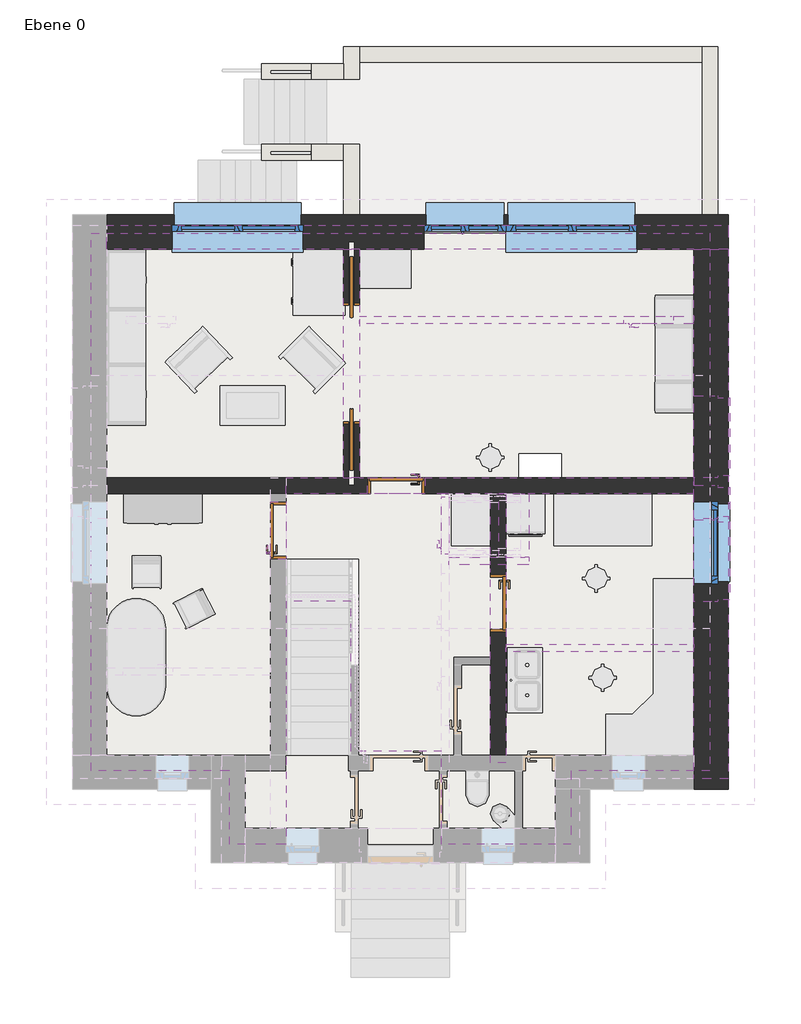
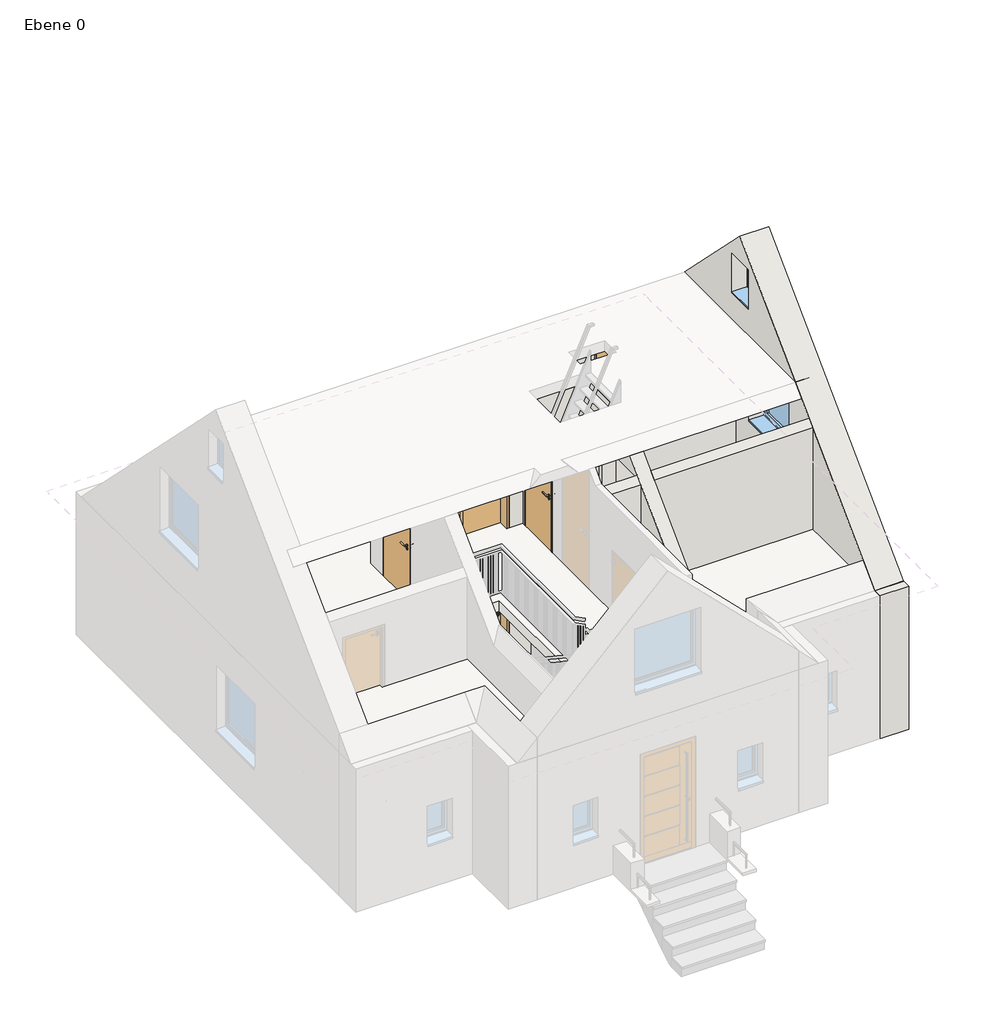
# One storey, part 2 of 3: 20 walls, 8 doors, 7 windows, 3 slabs.
"""IFC4 building model written with IfcOpenShell, lengths in millimetres."""

from ifc_helpers import new_model, si_unit, frame, origin, place, context, project, spatial, polyline, outline, extrude, faceted_brep, transform, mapped, element, save
from components import door_a362e75e, door_5454d597, door_c0c9e2e8, ml_1860_x_226_mit_rahmenstock_2_204127ef, ml_760_x_1200_513c8107, window_1260_x_2136_395e8edb, fe_1_tlg_drehkipp_1260_x_1260_6cbcbbed, fe_1_tlg_drehkipp_510_x_760_2ecf23b0, fe_2_tlg_drehkipp_mit_stulp_2010_x_1260_aa5a6977

model = new_model("IFC4")

# Units and contexts
model_context = context("Model", 3, world=origin())
ifc_project = project(units=[si_unit("LENGTHUNIT", "METRE", prefix="MILLI")], contexts=[model_context])

# Site, building, storey
site = spatial("IfcSite", under=ifc_project)
building = spatial("IfcBuilding", under=site)
storey = spatial("IfcBuildingStorey", under=building, Name="Ebene 0", Elevation=1000.0)

# Doors
placement = place(None, origin())
door_shape = door_a362e75e(model_context)
element("IfcDoor", 1, ObjectType="TU DF 1 - Rahmenstock flächenbündig variabel : ML - H - 885 x 2260", at=placement, inside=storey, context=model_context, shape_type="MappedRepresentation", body=[
    mapped(door_shape, transform((2682.5, 5620.0, 1000.0), x_axis=(-1.0, 0.0, 0.0), y_axis=(0.0, -1.0, 0.0), z_axis=(0.0, 0.0, 1.0))),
])
element("IfcDoor", 2, ObjectType="TU DF 1 - Rahmenstock flächenbündig variabel : ML - H - 885 x 2260", at=placement, inside=storey, context=model_context, shape_type="MappedRepresentation", body=[
    mapped(door_shape, transform((2682.5, 5620.0, 3750.0), x_axis=(-1.0, 0.0, 0.0), y_axis=(0.0, -1.0, 0.0), z_axis=(0.0, 0.0, 1.0))),
])
door_2_shape = door_5454d597(model_context)
element("IfcDoor", 3, ObjectType="TU DF 1 - Rahmenstock flächenbündig variabel : ML - H - 885 x 2260", at=placement, inside=storey, context=model_context, shape_type="MappedRepresentation", body=[
    mapped(door_2_shape, transform((870.0, 4932.5, 1000.0), x_axis=(0.0, 1.0, 0.0), y_axis=(-1.0, 0.0, 0.0), z_axis=(0.0, 0.0, 1.0))),
])
element("IfcDoor", 4, ObjectType="TU DF 1 - Rahmenstock flächenbündig variabel : ML - H - 885 x 2260", at=placement, inside=storey, context=model_context, shape_type="MappedRepresentation", body=[
    mapped(door_2_shape, transform((870.0, 4932.5, 3750.0), x_axis=(0.0, 1.0, 0.0), y_axis=(-1.0, 0.0, 0.0), z_axis=(0.0, 0.0, 1.0))),
])
door_3_shape = door_c0c9e2e8(model_context)
element("IfcDoor", 5, ObjectType="TU DF 1 - Rahmenstock flächenbündig variabel : ML - H - 885 x 2260", at=placement, inside=storey, context=model_context, shape_type="MappedRepresentation", body=[
    mapped(door_3_shape, transform((3432.5, 5010.0, 3750.0), x_axis=(0.0, 1.0, 0.0), y_axis=(-1.0, 0.0, 0.0), z_axis=(0.0, 0.0, 1.0))),
])
element("IfcDoor", 6, ObjectType="TU DF 1 - Rahmenstock flächenbündig variabel : ML - H - 885 x 2260", at=placement, inside=storey, context=model_context, shape_type="MappedRepresentation", body=[
    mapped(door_2_shape, transform((4245.0, 3817.5, 1100.0), x_axis=(0.0, -1.0, 0.0), y_axis=(1.0, 0.0, 0.0), z_axis=(0.0, 0.0, 1.0))),
])
ml_1860_x_226_mit_rahmenstock_2_shape = ml_1860_x_226_mit_rahmenstock_2_204127ef(model_context)
element("IfcDoor", 7, ObjectType="TU SF 2 - Schiebetüre in Wandtasche : ML - 1860 x 226 mit Rahmenstock 2", at=placement, inside=storey, context=model_context, shape_type="MappedRepresentation", body=[
    mapped(ml_1860_x_226_mit_rahmenstock_2_shape, transform((1995.1159714, 7495.0, 1000.0), x_axis=(0.0, 1.0, 0.0), y_axis=(-1.0, 0.0, 0.0), z_axis=(0.0, 0.0, 1.0))),
])
ml_760_x_1200_shape = ml_760_x_1200_513c8107(model_context)
element("IfcDoor", 8, ObjectType="TU DF 1 - Rahmenstock flächenbündig : ML -760 x 1200", at=placement, inside=storey, context=model_context, shape_type="MappedRepresentation", body=[
    mapped(ml_760_x_1200_shape, transform((6555.0, 8157.5, 3750.0), x_axis=(1.0, 0.0, 0.0), y_axis=(0.0, 1.0, 0.0), z_axis=(0.0, 0.0, 1.0))),
])

# Slabs
element("IfcSlab", 9, ObjectType="FB 100 Terrazzo", at=placement, inside=storey, context=model_context, shape_type="SweptSolid", body=[
    extrude(outline(polyline([(4365.0, 1490.0), (4365.0, 5500.0), (7250.0, 5500.0), (7250.0, 1490.0), (5125.0, 1490.0), (5125.0, 365.0), (4615.0, 365.0), (4615.0, 1490.0), (4365.0, 1490.0)])), frame((0.0, 0.0, 1000.0), z_axis=(0.0, 0.0, 1.0), x_axis=(1.0, 0.0, 0.0)), (0.0, 0.0, 1.0), 100.0),
])
element("IfcSlab", 10, ObjectType="STB 200", at=placement, inside=storey, context=model_context, shape_type="Brep", body=[
    faceted_brep([(-2000.0, 9490.0, 3550.0), (-1760.0, 9490.0, 3550.0), (7490.0, 9490.0, 3550.0), (7490.0, 9250.0, 3550.0), (7490.0, 1250.0, 3550.0), (7250.0, 1250.0, 3550.0), (5365.0, 1250.0, 3550.0), (5365.0, 965.0, 3550.0), (5365.0, 125.0, 3550.0), (5125.0, 125.0, 3550.0), (3375.0, 125.0, 3550.0), (3375.0, 365.0, 3550.0), (3375.0, 1550.0, 3550.0), (1990.0, 1550.0, 3550.0), (1990.0, 3847.3, 3550.0), (990.0, 3847.3, 3550.0), (990.0, 365.0, 3550.0), (990.0, 125.0, 3550.0), (365.0, 125.0, 3550.0), (125.0, 125.0, 3550.0), (125.0, 1250.0, 3550.0), (-160.0, 1250.0, 3550.0), (-2000.0, 1250.0, 3550.0), (-2000.0, 1490.0, 3550.0), (5215.0, 5751.2341615, 3550.0), (5215.0, 6111.2341615, 3550.0), (4565.0, 6111.2341615, 3550.0), (4565.0, 5751.2341615, 3550.0), (7490.0, 9490.0, 3750.0), (-1760.0, 9490.0, 3750.0), (-2000.0, 9490.0, 3750.0), (-2000.0, 1490.0, 3750.0), (-2000.0, 1250.0, 3750.0), (-160.0, 1250.0, 3750.0), (125.0, 1250.0, 3750.0), (125.0, 125.0, 3750.0), (365.0, 125.0, 3750.0), (990.0, 125.0, 3750.0), (990.0, 365.0, 3750.0), (990.0, 3847.3, 3750.0), (1990.0, 3847.3, 3750.0), (1990.0, 1550.0, 3750.0), (3375.0, 1550.0, 3750.0), (3375.0, 365.0, 3750.0), (3375.0, 125.0, 3750.0), (5125.0, 125.0, 3750.0), (5365.0, 125.0, 3750.0), (5365.0, 965.0, 3750.0), (5365.0, 1250.0, 3750.0), (7250.0, 1250.0, 3750.0), (7490.0, 1250.0, 3750.0), (7490.0, 9250.0, 3750.0), (5215.0, 6111.2341615, 3750.0), (5215.0, 5751.2341615, 3750.0), (4565.0, 5751.2341615, 3750.0), (4565.0, 6111.2341615, 3750.0)], [[[0, 1, 2, 3, 4, 5, 6, 7, 8, 9, 10, 11, 12, 13, 14, 15, 16, 17, 18, 19, 20, 21, 22, 23], [24, 25, 26, 27]], [[28, 29, 30, 31, 32, 33, 34, 35, 36, 37, 38, 39, 40, 41, 42, 43, 44, 45, 46, 47, 48, 49, 50, 51], [52, 53, 54, 55]], [[2, 1, 0, 30, 29, 28]], [[4, 3, 2, 28, 51, 50]], [[6, 5, 4, 50, 49, 48]], [[8, 7, 6, 48, 47, 46]], [[10, 9, 8, 46, 45, 44]], [[20, 19, 35, 34]], [[22, 21, 20, 34, 33, 32]], [[0, 23, 22, 32, 31, 30]], [[17, 16, 15, 39, 38, 37]], [[14, 13, 41, 40]], [[15, 14, 40, 39]], [[12, 11, 10, 44, 43, 42]], [[13, 12, 42, 41]], [[19, 18, 17, 37, 36, 35]], [[24, 53, 52, 25]], [[25, 52, 55, 26]], [[26, 55, 54, 27]], [[53, 24, 27, 54]]]),
])
element("IfcSlab", 11, ObjectType="STB 200", at=placement, inside=storey, context=model_context, shape_type="Brep", body=[
    faceted_brep([(-2000.0, 9490.0, 800.0), (-1750.0, 9490.0, 800.0), (7490.0, 9490.0, 800.0), (7490.0, 9240.0, 800.0), (7490.0, 1250.0, 800.0), (7240.0, 1250.0, 800.0), (5365.0, 1250.0, 800.0), (5365.0, 1125.0, 800.0), (5365.0, 125.0, 800.0), (5115.0, 125.0, 800.0), (375.0, 125.0, 800.0), (125.0, 125.0, 800.0), (125.0, 1250.0, 800.0), (0.0, 1250.0, 800.0), (-2000.0, 1250.0, 800.0), (-2000.0, 1500.0, 800.0), (990.0, 4490.0, 800.0), (990.0, 1490.0, 800.0), (1990.0, 1490.0, 800.0), (1990.0, 4490.0, 800.0), (5215.0, 5751.2341615, 800.0), (5215.0, 6111.2341615, 800.0), (4565.0, 6111.2341615, 800.0), (4565.0, 5751.2341615, 800.0), (7490.0, 9490.0, 1000.0), (-1750.0, 9490.0, 1000.0), (-2000.0, 9490.0, 1000.0), (-2000.0, 1500.0, 1000.0), (-2000.0, 1250.0, 1000.0), (0.0, 1250.0, 1000.0), (125.0, 1250.0, 1000.0), (125.0, 125.0, 1000.0), (375.0, 125.0, 1000.0), (5115.0, 125.0, 1000.0), (5365.0, 125.0, 1000.0), (5365.0, 1125.0, 1000.0), (5365.0, 1250.0, 1000.0), (7240.0, 1250.0, 1000.0), (7490.0, 1250.0, 1000.0), (7490.0, 9240.0, 1000.0), (990.0, 1490.0, 1000.0), (990.0, 4490.0, 1000.0), (1990.0, 4490.0, 1000.0), (1990.0, 1490.0, 1000.0), (5215.0, 6111.2341615, 1000.0), (5215.0, 5751.2341615, 1000.0), (4565.0, 5751.2341615, 1000.0), (4565.0, 6111.2341615, 1000.0)], [[[0, 1, 2, 3, 4, 5, 6, 7, 8, 9, 10, 11, 12, 13, 14, 15], [16, 17, 18, 19], [20, 21, 22, 23]], [[24, 25, 26, 27, 28, 29, 30, 31, 32, 33, 34, 35, 36, 37, 38, 39], [40, 41, 42, 43], [44, 45, 46, 47]], [[2, 1, 0, 26, 25, 24]], [[4, 3, 2, 24, 39, 38]], [[6, 5, 4, 38, 37, 36]], [[8, 7, 6, 36, 35, 34]], [[11, 10, 9, 8, 34, 33, 32, 31]], [[12, 11, 31, 30]], [[14, 13, 12, 30, 29, 28]], [[0, 15, 14, 28, 27, 26]], [[17, 16, 41, 40]], [[18, 17, 40, 43]], [[19, 18, 43, 42]], [[16, 19, 42, 41]], [[20, 45, 44, 21]], [[21, 44, 47, 22]], [[22, 47, 46, 23]], [[45, 20, 23, 46]]]),
])

# Walls
element("IfcWall", 12, ObjectType="Ziegel+WD hart 365+140+2", at=placement, inside=storey, context=model_context, shape_type="Brep", body=[
    faceted_brep([(-1760.0, 9250.0, 1000.0), (1875.0, 9250.0, 1000.0), (1952.6159714, 9250.0, 1000.0), (1952.6159714, 9250.0, 3260.0), (2037.6159714, 9250.0, 3260.0), (2037.6159714, 9250.0, 1000.0), (2115.0, 9250.0, 1000.0), (3105.0, 9250.0, 1000.0), (3105.0, 9250.0, 3135.0), (4365.0, 9250.0, 3135.0), (4365.0, 9250.0, 3110.0), (6375.0, 9250.0, 3110.0), (6375.0, 9250.0, 1850.0), (4365.0, 9250.0, 1850.0), (4365.0, 9250.0, 1000.0), (7250.0, 9250.0, 1000.0), (7775.0, 9250.0, 1000.0), (7775.0, 9250.0, 3750.0), (7490.0, 9250.0, 3750.0), (7490.0, 9250.0, 3550.0), (7250.0, 9250.0, 3550.0), (2115.0, 9250.0, 3550.0), (1875.0, 9250.0, 3550.0), (-1760.0, 9250.0, 3550.0), (-760.0, 9250.0, 3110.0), (1250.0, 9250.0, 3110.0), (1250.0, 9250.0, 1850.0), (-760.0, 9250.0, 1850.0), (7775.0, 9775.0, 1000.0), (-1760.0, 9775.0, 1000.0), (-1760.0, 9775.0, 3750.0), (7775.0, 9775.0, 3750.0), (1220.0, 9775.0, 1865.0), (1220.0, 9775.0, 3080.0), (-730.0, 9775.0, 3080.0), (-730.0, 9775.0, 1865.0), (4335.0, 9775.0, 1195.0), (4335.0, 9775.0, 3105.0), (3135.0, 9775.0, 3105.0), (3135.0, 9775.0, 1195.0), (6345.0, 9775.0, 1865.0), (6345.0, 9775.0, 3080.0), (4395.0, 9775.0, 3080.0), (4395.0, 9775.0, 1865.0), (4365.0, 9615.0, 1000.0), (3105.0, 9615.0, 1000.0), (2037.6159714, 9360.0, 1000.0), (1952.6159714, 9360.0, 1000.0), (-1760.0, 9490.0, 3750.0), (7490.0, 9490.0, 3750.0), (7775.0, 9615.0, 3750.0), (-1760.0, 9490.0, 3550.0), (-760.0, 9615.0, 3110.0), (1250.0, 9615.0, 3110.0), (1250.0, 9615.0, 1850.0), (-760.0, 9615.0, 1850.0), (1220.0, 9615.0, 3080.0), (1220.0, 9615.0, 1870.0), (-730.0, 9615.0, 1870.0), (-730.0, 9615.0, 3080.0), (1952.6159714, 9360.0, 3260.0), (2037.6159714, 9360.0, 3260.0), (3105.0, 9615.0, 3135.0), (4365.0, 9615.0, 3135.0), (4365.0, 9615.0, 3110.0), (4365.0, 9615.0, 1850.0), (6375.0, 9615.0, 1850.0), (6375.0, 9615.0, 3110.0), (4335.0, 9615.0, 3105.0), (4335.0, 9615.0, 1200.0), (3135.0, 9615.0, 1200.0), (3135.0, 9615.0, 3105.0), (6345.0, 9615.0, 3080.0), (6345.0, 9615.0, 1870.0), (4395.0, 9615.0, 1870.0), (4395.0, 9615.0, 3080.0), (7490.0, 9490.0, 3550.0)], [[[0, 1, 2, 3, 4, 5, 6, 7, 8, 9, 10, 11, 12, 13, 14, 15, 16, 17, 18, 19, 20, 21, 22, 23], [24, 25, 26, 27]], [[28, 29, 30, 31], [32, 33, 34, 35], [36, 37, 38, 39], [40, 41, 42, 43]], [[29, 28, 16, 15, 14, 44, 45, 7, 6, 5, 46, 47, 2, 1, 0]], [[31, 30, 48, 49, 18, 17, 50]], [[30, 29, 0, 23, 51, 48]], [[52, 53, 25, 24]], [[54, 55, 27, 26]], [[52, 24, 27, 55]], [[25, 53, 54, 26]], [[53, 52, 55, 54], [56, 57, 58, 59]], [[57, 56, 33, 32]], [[58, 57, 32, 35]], [[59, 58, 35, 34]], [[56, 59, 34, 33]], [[60, 61, 4, 3]], [[47, 60, 3, 2]], [[61, 46, 5, 4]], [[61, 60, 47, 46]], [[62, 63, 9, 8]], [[62, 8, 7, 45]], [[9, 63, 64, 10]], [[44, 14, 13, 65]], [[63, 62, 45, 44, 65, 66, 67, 64], [68, 69, 70, 71], [72, 73, 74, 75]], [[69, 68, 37, 36]], [[70, 69, 36, 39]], [[71, 70, 39, 38]], [[68, 71, 38, 37]], [[64, 67, 11, 10]], [[66, 65, 13, 12]], [[67, 66, 12, 11]], [[73, 72, 41, 40]], [[74, 73, 40, 43]], [[75, 74, 43, 42]], [[72, 75, 42, 41]], [[19, 76, 51, 23, 22, 21, 20]], [[76, 49, 48, 51]], [[49, 76, 19, 18]], [[16, 28, 31, 50, 17]]]),
])
element("IfcWall", 13, ObjectType="Ziegel+WD hart 365+140+2", at=placement, inside=storey, context=model_context, shape_type="Brep", body=[
    faceted_brep([(7250.0, 9250.0, 1000.0), (7250.0, 5740.0, 1000.0), (7250.0, 5500.0, 1000.0), (7250.0, 1490.0, 1000.0), (7250.0, 965.0, 1000.0), (7250.0, 965.0, 3750.0), (7250.0, 1125.0, 3750.0), (7250.0, 1250.0, 3750.0), (7250.0, 1250.0, 3550.0), (7250.0, 1490.0, 3550.0), (7250.0, 5500.0, 3550.0), (7250.0, 5740.0, 3550.0), (7250.0, 9250.0, 3550.0), (7250.0, 5375.0, 3110.0), (7250.0, 4115.0, 3110.0), (7250.0, 4115.0, 1850.0), (7250.0, 5375.0, 1850.0), (7775.0, 965.0, 1000.0), (7775.0, 9250.0, 1000.0), (7775.0, 9250.0, 3750.0), (7775.0, 1125.0, 3750.0), (7775.0, 965.0, 3750.0), (7775.0, 4145.0, 1860.0), (7775.0, 4145.0, 3080.0), (7775.0, 5345.0, 3080.0), (7775.0, 5345.0, 1860.0), (7615.0, 5375.0, 3110.0), (7615.0, 4115.0, 3110.0), (7615.0, 5375.0, 1850.0), (7615.0, 4115.0, 1850.0), (7615.0, 4145.0, 3080.0), (7615.0, 4145.0, 1870.0), (7615.0, 5345.0, 1870.0), (7615.0, 5345.0, 3080.0), (7490.0, 1250.0, 3550.0), (7490.0, 9250.0, 3550.0), (7490.0, 1250.0, 3750.0), (7490.0, 9250.0, 3750.0)], [[[0, 1, 2, 3, 4, 5, 6, 7, 8, 9, 10, 11, 12], [13, 14, 15, 16]], [[17, 18, 19, 20, 21], [22, 23, 24, 25]], [[5, 4, 17, 21]], [[26, 27, 14, 13]], [[28, 16, 15, 29]], [[26, 13, 16, 28]], [[14, 27, 29, 15]], [[27, 26, 28, 29], [30, 31, 32, 33]], [[31, 30, 23, 22]], [[32, 31, 22, 25]], [[33, 32, 25, 24]], [[30, 33, 24, 23]], [[8, 34, 35, 12, 11, 10, 9]], [[34, 36, 37, 35]], [[36, 34, 8, 7]], [[19, 18, 0, 12, 35, 37]], [[4, 3, 2, 1, 0, 18, 17]], [[21, 20, 19, 37, 36, 7, 6, 5]]]),
])
element("IfcWall", 14, ObjectType="Ziegel+WD hart 365+140+2", at=placement, inside=storey, context=model_context, shape_type="Brep", body=[
    faceted_brep([(7250.0, 9250.0, 3750.0), (7250.0, 5740.0, 3750.0), (7250.0, 5500.0, 3750.0), (7250.0, 3190.0, 3750.0), (7250.0, 3075.0, 3750.0), (7250.0, 1490.0, 3750.0), (7250.0, 1250.0, 3750.0), (7250.0, 1125.0, 3750.0), (7250.0, 1125.0, 3753.0508653), (7250.0, 1128.0508653, 3753.0508653), (7250.0, 1490.0, 4115.0), (7250.0, 3075.0, 5700.0), (7250.0, 3190.0, 5815.0), (7250.0, 5370.0, 7995.0), (7250.0, 9250.0, 4115.0), (7250.0, 5100.0, 5860.0), (7250.0, 3840.0, 5860.0), (7250.0, 3840.0, 4600.0), (7250.0, 5100.0, 4600.0), (7250.0, 7000.0, 5860.0), (7250.0, 5740.0, 5860.0), (7250.0, 5740.0, 4600.0), (7250.0, 7000.0, 4600.0), (7250.0, 5625.0, 7510.0), (7250.0, 5115.0, 7510.0), (7250.0, 5115.0, 6750.0), (7250.0, 5625.0, 6750.0), (7775.0, 1125.0, 3750.0), (7775.0, 9250.0, 3750.0), (7775.0, 9250.0, 4115.0), (7775.0, 5370.0, 7995.0), (7775.0, 1128.0508653, 3753.0508653), (7775.0, 1125.0, 3753.0508653), (7775.0, 3870.0, 4610.0), (7775.0, 3870.0, 5830.0), (7775.0, 5070.0, 5830.0), (7775.0, 5070.0, 4610.0), (7775.0, 5770.0, 4610.0), (7775.0, 5770.0, 5830.0), (7775.0, 6970.0, 5830.0), (7775.0, 6970.0, 4610.0), (7775.0, 5145.0, 6760.0), (7775.0, 5145.0, 7480.0), (7775.0, 5595.0, 7480.0), (7775.0, 5595.0, 6760.0), (7490.0, 9250.0, 3750.0), (7615.0, 5100.0, 5860.0), (7615.0, 3840.0, 5860.0), (7615.0, 5100.0, 4600.0), (7615.0, 3840.0, 4600.0), (7615.0, 3870.0, 5830.0), (7615.0, 3870.0, 4620.0), (7615.0, 5070.0, 4620.0), (7615.0, 5070.0, 5830.0), (7615.0, 7000.0, 5860.0), (7615.0, 5740.0, 5860.0), (7615.0, 7000.0, 4600.0), (7615.0, 5740.0, 4600.0), (7615.0, 5770.0, 5830.0), (7615.0, 5770.0, 4620.0), (7615.0, 6970.0, 4620.0), (7615.0, 6970.0, 5830.0), (7615.0, 5625.0, 7510.0), (7615.0, 5115.0, 7510.0), (7615.0, 5625.0, 6750.0), (7615.0, 5115.0, 6750.0), (7615.0, 5145.0, 7480.0), (7615.0, 5145.0, 6770.0), (7615.0, 5595.0, 6770.0), (7615.0, 5595.0, 7480.0)], [[[0, 1, 2, 3, 4, 5, 6, 7, 8, 9, 10, 11, 12, 13, 14], [15, 16, 17, 18], [19, 20, 21, 22], [23, 24, 25, 26]], [[27, 28, 29, 30, 31, 32], [33, 34, 35, 36], [37, 38, 39, 40], [41, 42, 43, 44]], [[7, 6, 5, 4, 3, 2, 1, 0, 45, 28, 27]], [[0, 14, 29, 28, 45]], [[8, 7, 27, 32]], [[46, 47, 16, 15]], [[48, 18, 17, 49]], [[46, 15, 18, 48]], [[16, 47, 49, 17]], [[47, 46, 48, 49], [50, 51, 52, 53]], [[51, 50, 34, 33]], [[52, 51, 33, 36]], [[53, 52, 36, 35]], [[50, 53, 35, 34]], [[54, 55, 20, 19]], [[56, 22, 21, 57]], [[54, 19, 22, 56]], [[20, 55, 57, 21]], [[55, 54, 56, 57], [58, 59, 60, 61]], [[59, 58, 38, 37]], [[60, 59, 37, 40]], [[61, 60, 40, 39]], [[58, 61, 39, 38]], [[29, 14, 13, 30]], [[13, 12, 11, 10, 9, 31, 30]], [[8, 32, 31, 9]], [[62, 63, 24, 23]], [[64, 26, 25, 65]], [[62, 23, 26, 64]], [[24, 63, 65, 25]], [[63, 62, 64, 65], [66, 67, 68, 69]], [[67, 66, 42, 41]], [[68, 67, 41, 44]], [[69, 68, 44, 43]], [[66, 69, 43, 42]]]),
])
element("IfcWall", 15, ObjectType="Klinker 240", at=placement, inside=storey, context=model_context, shape_type="SweptSolid", body=[
    extrude(outline(polyline([(1000.0, 1875.0), (2000.0, 1875.0), (2000.0, 1380.0), (1500.0, 1380.0), (1500.0, 615.0), (1000.0, 615.0), (1000.0, 1875.0)])), frame((0.0, 10615.0, 0.0), z_axis=(0.0, 1.0, 0.0), x_axis=(0.0, 0.0, 1.0)), (0.0, 0.0, 1.0), 240.0),
])
element("IfcWall", 16, ObjectType="Klinker 240", at=placement, inside=storey, context=model_context, shape_type="SweptSolid", body=[
    extrude(outline(polyline([(1000.0, 1875.0), (2000.0, 1875.0), (2000.0, 1380.0), (1500.0, 1380.0), (1500.0, 615.0), (1000.0, 615.0), (1000.0, 1875.0)])), frame((0.0, 11855.0, 0.0), z_axis=(0.0, 1.0, 0.0), x_axis=(0.0, 0.0, 1.0)), (0.0, 0.0, 1.0), 240.0),
])
element("IfcWall", 17, ObjectType="Ziegel 115", at=placement, inside=storey, context=model_context, shape_type="Brep", body=[
    faceted_brep([(-1760.0, 8100.0, 5265.0), (-1760.0, 8100.0, 3750.0), (-1465.0, 8100.0, 3750.0), (-1465.0, 8100.0, 4950.0), (-705.0, 8100.0, 4950.0), (-705.0, 8100.0, 3750.0), (1875.0, 8100.0, 3750.0), (1875.0, 8100.0, 5265.0), (-1760.0, 8215.0, 3750.0), (-1760.0, 8215.0, 5150.0), (1875.0, 8215.0, 5150.0), (1875.0, 8215.0, 3750.0), (-705.0, 8215.0, 3750.0), (-705.0, 8215.0, 4950.0), (-1465.0, 8215.0, 4950.0), (-1465.0, 8215.0, 3750.0)], [[[0, 1, 2, 3, 4, 5, 6, 7]], [[8, 9, 10, 11, 12, 13, 14, 15]], [[1, 8, 15, 2]], [[5, 12, 11, 6]], [[1, 0, 9, 8]], [[7, 6, 11, 10]], [[3, 2, 15, 14]], [[5, 4, 13, 12]], [[4, 3, 14, 13]], [[9, 0, 7, 10]]]),
    faceted_brep([(7250.0, 8100.0, 3750.0), (7250.0, 8100.0, 5265.0), (2115.0, 8100.0, 5265.0), (2115.0, 8100.0, 3750.0), (6175.0, 8100.0, 3750.0), (6175.0, 8100.0, 4950.0), (6935.0, 8100.0, 4950.0), (6935.0, 8100.0, 3750.0), (7250.0, 8215.0, 5150.0), (7250.0, 8215.0, 3750.0), (6935.0, 8215.0, 3750.0), (6935.0, 8215.0, 4950.0), (6175.0, 8215.0, 4950.0), (6175.0, 8215.0, 3750.0), (2115.0, 8215.0, 3750.0), (2115.0, 8215.0, 5150.0)], [[[0, 1, 2, 3, 4, 5, 6, 7]], [[8, 9, 10, 11, 12, 13, 14, 15]], [[9, 0, 7, 10]], [[13, 4, 3, 14]], [[1, 0, 9, 8]], [[3, 2, 15, 14]], [[6, 11, 10, 7]], [[12, 5, 4, 13]], [[11, 6, 5, 12]], [[1, 8, 15, 2]]]),
])
element("IfcWall", 18, ObjectType="Ziegel 115", at=placement, inside=storey, context=model_context, shape_type="Brep", body=[
    faceted_brep([(7250.0, 3075.0, 3750.0), (7250.0, 3075.0, 5700.0), (4365.0, 3075.0, 5700.0), (4365.0, 3075.0, 3750.0), (7250.0, 3190.0, 5815.0), (7250.0, 3190.0, 3750.0), (4365.0, 3190.0, 3750.0), (4365.0, 3190.0, 5760.0), (4365.0, 3190.0, 5815.0)], [[[0, 1, 2, 3]], [[4, 5, 6, 7, 8]], [[5, 0, 3, 6]], [[1, 0, 5, 4]], [[3, 2, 8, 7, 6]], [[1, 4, 8, 2]]]),
    faceted_brep([(3490.0, 3075.0, 5750.0), (3490.0, 3075.0, 3750.0), (4125.0, 3075.0, 3750.0), (4125.0, 3075.0, 5700.0), (3540.0, 3075.0, 5700.0), (3490.0, 3190.0, 3750.0), (3490.0, 3190.0, 5815.0), (4125.0, 3190.0, 5815.0), (4125.0, 3190.0, 5760.0), (4125.0, 3190.0, 3750.0), (3490.0, 3125.0, 5750.0)], [[[0, 1, 2, 3, 4]], [[5, 6, 7, 8, 9]], [[1, 5, 9, 2]], [[1, 0, 10, 6, 5]], [[3, 2, 9, 8, 7]], [[0, 4, 10]], [[6, 10, 4, 3, 7]]]),
])
element("IfcWall", 19, ObjectType="Ziegel 115", at=placement, inside=storey, context=model_context, shape_type="Brep", body=[
    faceted_brep([(4125.0, 4520.0, 3750.0), (3490.0, 4520.0, 3750.0), (3490.0, 4520.0, 6050.0), (4125.0, 4520.0, 6050.0), (4365.0, 4520.0, 6050.0), (4590.0, 4520.0, 6050.0), (4593.9681704, 4520.0, 6050.0), (4718.8996138, 4520.0, 6050.0), (4719.1733767, 4520.0, 6050.0), (4365.0, 4520.0, 5215.6198126), (4125.0, 4520.0, 4650.2152448), (4125.0, 4405.0, 3750.0), (4125.0, 4405.0, 4650.2152448), (4365.0, 4405.0, 5215.6198126), (4719.1733767, 4405.0, 6050.0), (4365.0, 4405.0, 6050.0), (4125.0, 4405.0, 6050.0), (3490.0, 4405.0, 6050.0), (3490.0, 4405.0, 3750.0)], [[[0, 1, 2, 3, 4, 5, 6, 7, 8, 9, 10]], [[11, 12, 13, 14, 15, 16, 17, 18]], [[2, 1, 18, 17]], [[1, 0, 11, 18]], [[10, 9, 8, 14, 13, 12]], [[0, 10, 12, 11]], [[8, 7, 6, 5, 4, 3, 2, 17, 16, 15, 14]]]),
])
element("IfcWall", 20, ObjectType="Ziegel 115", at=placement, inside=storey, context=model_context, shape_type="SweptSolid", body=[
    extrude(outline(polyline([(5250.0, 4254.3883174), (5250.0, 4379.3197608), (6050.0, 4718.8996138), (6050.0, 4593.9681704), (5250.0, 4254.3883174)])), frame((0.0, 4520.0, 0.0), z_axis=(0.0, 1.0, 0.0), x_axis=(0.0, 0.0, 1.0)), (0.0, 0.0, 1.0), 980.0),
])
element("IfcWall", 21, ObjectType="Ziegel 240", at=placement, inside=storey, context=model_context, shape_type="Brep", body=[
    faceted_brep([(-1760.0, 5500.0, 3550.0), (-1760.0, 5500.0, 1000.0), (750.0, 5500.0, 1000.0), (990.0, 5500.0, 1000.0), (2240.0, 5500.0, 1000.0), (2240.0, 5500.0, 3260.0), (3125.0, 5500.0, 3260.0), (3125.0, 5500.0, 1000.0), (7250.0, 5500.0, 1000.0), (7250.0, 5500.0, 3550.0), (990.0, 5500.0, 3550.0), (750.0, 5500.0, 3550.0), (-1760.0, 5740.0, 1000.0), (-1760.0, 5740.0, 3550.0), (1875.0, 5740.0, 3550.0), (2115.0, 5740.0, 3550.0), (7250.0, 5740.0, 3550.0), (7250.0, 5740.0, 1000.0), (3125.0, 5740.0, 1000.0), (3125.0, 5740.0, 3260.0), (2240.0, 5740.0, 3260.0), (2240.0, 5740.0, 1000.0), (2115.0, 5740.0, 1000.0), (2037.6159714, 5740.0, 1000.0), (2037.6159714, 5740.0, 3260.0), (1952.6159714, 5740.0, 3260.0), (1952.6159714, 5740.0, 1000.0), (1875.0, 5740.0, 1000.0), (1952.6159714, 5630.0, 1000.0), (2037.6159714, 5630.0, 1000.0), (2037.6159714, 5630.0, 3260.0), (1952.6159714, 5630.0, 3260.0)], [[[0, 1, 2, 3, 4, 5, 6, 7, 8, 9, 10, 11]], [[12, 13, 14, 15, 16, 17, 18, 19, 20, 21, 22, 23, 24, 25, 26, 27]], [[1, 12, 27, 26, 28, 29, 23, 22, 21, 4, 3, 2]], [[17, 8, 7, 18]], [[1, 0, 13, 12]], [[9, 8, 17, 16]], [[5, 4, 21, 20]], [[7, 6, 19, 18]], [[6, 5, 20, 19]], [[30, 31, 25, 24]], [[31, 28, 26, 25]], [[31, 30, 29, 28]], [[29, 30, 24, 23]], [[0, 11, 10, 9, 16, 15, 14, 13]]]),
])
element("IfcWall", 22, ObjectType="Ziegel 240", at=placement, inside=storey, context=model_context, shape_type="Brep", body=[
    faceted_brep([(4125.0, 5500.0, 3550.0), (4125.0, 5500.0, 1000.0), (4125.0, 4260.0, 1000.0), (4125.0, 4260.0, 3360.0), (4125.0, 3375.0, 3360.0), (4125.0, 3375.0, 1000.0), (4125.0, 2990.0, 1000.0), (4125.0, 2875.0, 1000.0), (4125.0, 1490.0, 1000.0), (4125.0, 1490.0, 3550.0), (4125.0, 2875.0, 3550.0), (4125.0, 2990.0, 3550.0), (4365.0, 5500.0, 1000.0), (4365.0, 5500.0, 3550.0), (4365.0, 1490.0, 3550.0), (4365.0, 1490.0, 1000.0), (4365.0, 3375.0, 1000.0), (4365.0, 3375.0, 3360.0), (4365.0, 4260.0, 3360.0), (4365.0, 4260.0, 1000.0)], [[[0, 1, 2, 3, 4, 5, 6, 7, 8, 9, 10, 11]], [[12, 13, 14, 15, 16, 17, 18, 19]], [[1, 12, 19, 2]], [[15, 8, 7, 6, 5, 16]], [[1, 0, 13, 12]], [[9, 8, 15, 14]], [[4, 17, 16, 5]], [[18, 3, 2, 19]], [[17, 4, 3, 18]], [[0, 11, 10, 9, 14, 13]]]),
])
element("IfcWall", 23, ObjectType="Ziegel 240", at=placement, inside=storey, context=model_context, shape_type="Brep", body=[
    faceted_brep([(1875.0, 9250.0, 3550.0), (1875.0, 9250.0, 1000.0), (1875.0, 8425.0, 1000.0), (1875.0, 8425.0, 3260.0), (1875.0, 6565.0, 3260.0), (1875.0, 6565.0, 1000.0), (1875.0, 5740.0, 1000.0), (1875.0, 5740.0, 3550.0), (2115.0, 9250.0, 1000.0), (2115.0, 9250.0, 3550.0), (2115.0, 5740.0, 3550.0), (2115.0, 5740.0, 1000.0), (2115.0, 6565.0, 1000.0), (2115.0, 6565.0, 3260.0), (2115.0, 8425.0, 3260.0), (2115.0, 8425.0, 1000.0), (1952.6159714, 6565.0, 1000.0), (1952.6159714, 5740.0, 1000.0), (1952.6159714, 9250.0, 1000.0), (1952.6159714, 8425.0, 1000.0), (2037.6159714, 5740.0, 1000.0), (2037.6159714, 6565.0, 1000.0), (2037.6159714, 8425.0, 1000.0), (2037.6159714, 9250.0, 1000.0), (2037.6159714, 9250.0, 3260.0), (1952.6159714, 9250.0, 3260.0), (1952.6159714, 5740.0, 3260.0), (2037.6159714, 5740.0, 3260.0), (2037.6159714, 6565.0, 3260.0), (1952.6159714, 6565.0, 3260.0), (1952.6159714, 8425.0, 3260.0), (2037.6159714, 8425.0, 3260.0)], [[[0, 1, 2, 3, 4, 5, 6, 7]], [[8, 9, 10, 11, 12, 13, 14, 15]], [[6, 5, 16, 17]], [[2, 1, 18, 19]], [[12, 11, 20, 21]], [[8, 15, 22, 23]], [[1, 0, 9, 8, 23, 24, 25, 18]], [[7, 6, 17, 26, 27, 20, 11, 10]], [[13, 28, 27, 26, 29, 4, 3, 30, 25, 24, 31, 14]], [[28, 13, 12, 21]], [[4, 29, 16, 5]], [[30, 3, 2, 19]], [[14, 31, 22, 15]], [[16, 29, 26, 17]], [[30, 19, 18, 25]], [[28, 21, 20, 27]], [[22, 31, 24, 23]], [[0, 7, 10, 9]]]),
])
element("IfcWall", 24, ObjectType="Ziegel 240", at=placement, inside=storey, context=model_context, shape_type="Brep", body=[
    faceted_brep([(7250.0, 5500.0, 3750.0), (7250.0, 5500.0, 6050.0), (4590.0, 5500.0, 6050.0), (3490.0, 5500.0, 6050.0), (990.0, 5500.0, 6050.0), (990.0, 5500.0, 3750.0), (2240.0, 5500.0, 3750.0), (2240.0, 5500.0, 6010.0), (3125.0, 5500.0, 6010.0), (3125.0, 5500.0, 3750.0), (990.0, 5740.0, 6050.0), (1875.0, 5740.0, 6050.0), (2115.0, 5740.0, 6050.0), (7250.0, 5740.0, 6050.0), (7250.0, 5740.0, 5860.0), (7250.0, 5740.0, 4600.0), (7250.0, 5740.0, 3750.0), (3125.0, 5740.0, 3750.0), (3125.0, 5740.0, 6010.0), (2240.0, 5740.0, 6010.0), (2240.0, 5740.0, 3750.0), (2115.0, 5740.0, 3750.0), (1875.0, 5740.0, 3750.0), (990.0, 5740.0, 3750.0)], [[[0, 1, 2, 3, 4, 5, 6, 7, 8, 9]], [[10, 11, 12, 13, 14, 15, 16, 17, 18, 19, 20, 21, 22, 23]], [[16, 0, 9, 17]], [[5, 23, 22, 21, 20, 6]], [[1, 0, 16, 15, 14, 13]], [[19, 7, 6, 20]], [[8, 18, 17, 9]], [[7, 19, 18, 8]], [[5, 4, 10, 23]], [[13, 12, 11, 10, 4, 3, 2, 1]]]),
])
element("IfcWall", 25, ObjectType="Ziegel 240", at=placement, inside=storey, context=model_context, shape_type="Brep", body=[
    faceted_brep([(4125.0, 1370.0, 3750.0), (4125.0, 1370.0, 3995.0), (4125.0, 3425.0, 6050.0), (4125.0, 4405.0, 6050.0), (4125.0, 4405.0, 4650.2152448), (4125.0, 4520.0, 4650.2152448), (4125.0, 4520.0, 6050.0), (4125.0, 4560.0, 6050.0), (4125.0, 4560.0, 5300.9090909), (4125.0, 5500.0, 5300.9090909), (4125.0, 5500.0, 3750.0), (4125.0, 4520.0, 3750.0), (4125.0, 4405.0, 3750.0), (4125.0, 4290.0, 3750.0), (4125.0, 4290.0, 5760.0), (4125.0, 3190.0, 5760.0), (4125.0, 3190.0, 3750.0), (4365.0, 1370.0, 3995.0), (4365.0, 1370.0, 3750.0), (4365.0, 3190.0, 3750.0), (4365.0, 3190.0, 5760.0), (4365.0, 4290.0, 5760.0), (4365.0, 4290.0, 3750.0), (4365.0, 5500.0, 3750.0), (4365.0, 5500.0, 5300.9090909), (4365.0, 4560.0, 5300.9090909), (4365.0, 4560.0, 6050.0), (4365.0, 4520.0, 6050.0), (4365.0, 4520.0, 5215.6198126), (4365.0, 4405.0, 5215.6198126), (4365.0, 4405.0, 6050.0), (4365.0, 3425.0, 6050.0)], [[[0, 1, 2, 3, 4, 5, 6, 7, 8, 9, 10, 11, 12, 13, 14, 15, 16]], [[17, 18, 19, 20, 21, 22, 23, 24, 25, 26, 27, 28, 29, 30, 31]], [[10, 9, 24, 23]], [[15, 20, 19, 16]], [[20, 15, 14, 21]], [[21, 14, 13, 22]], [[0, 16, 19, 18]], [[23, 22, 13, 12, 11, 10]], [[1, 0, 18, 17]], [[2, 1, 17, 31]], [[8, 7, 26, 25]], [[9, 8, 25, 24]], [[5, 28, 27, 6]], [[29, 4, 3, 30]], [[28, 5, 4, 29]], [[26, 7, 6, 27]], [[2, 31, 30, 3]]]),
])
element("IfcWall", 26, ObjectType="Ziegel 240", at=placement, inside=storey, context=model_context, shape_type="SweptSolid", body=[
    extrude(outline(polyline([(9250.0, 3750.0), (5740.0, 3750.0), (5740.0, 6050.0), (7315.0, 6050.0), (9250.0, 4115.0), (9250.0, 3750.0)])), frame((1875.0, 0.0, 0.0), z_axis=(1.0, 0.0, 0.0), x_axis=(0.0, 1.0, 0.0)), (0.0, 0.0, 1.0), 240.0),
])
element("IfcWall", 27, ObjectType="Ziegel 240", at=placement, inside=storey, context=model_context, shape_type="Brep", body=[
    faceted_brep([(7615.0, 9775.0, 1000.0), (7615.0, 12355.0, 1000.0), (7615.0, 12355.0, 2000.0), (7615.0, 9775.0, 2000.0), (7375.0, 9775.0, 1000.0), (7375.0, 9775.0, 2000.0), (7375.0, 12115.0, 2000.0), (7375.0, 12355.0, 2000.0), (7375.0, 12355.0, 1000.0), (7375.0, 12235.0, 1000.0), (7375.0, 12115.0, 1000.0)], [[[0, 1, 2, 3]], [[4, 5, 6, 7, 8, 9, 10]], [[1, 0, 4, 10, 9, 8]], [[3, 2, 7, 6, 5]], [[2, 1, 8, 7]], [[0, 3, 5, 4]]]),
])
element("IfcWall", 28, ObjectType="Ziegel 240", at=placement, inside=storey, context=model_context, shape_type="SweptSolid", body=[
    extrude(outline(polyline([(2115.0, 12355.0), (7375.0, 12355.0), (7375.0, 12115.0), (2115.0, 12115.0), (2115.0, 12355.0)])), frame((0.0, 0.0, 1000.0), z_axis=(0.0, 0.0, 1.0), x_axis=(1.0, 0.0, 0.0)), (0.0, 0.0, 1.0), 1000.0),
])
element("IfcWall", 29, ObjectType="Ziegel 240", at=placement, inside=storey, context=model_context, shape_type="Brep", body=[
    faceted_brep([(1875.0, 12355.0, 1000.0), (1875.0, 12095.0, 1000.0), (1875.0, 11855.0, 1000.0), (1875.0, 11855.0, 2000.0), (1875.0, 12095.0, 2000.0), (1875.0, 12355.0, 2000.0), (2115.0, 12355.0, 1000.0), (2115.0, 12355.0, 2000.0), (2115.0, 12115.0, 2000.0), (2115.0, 11855.0, 2000.0), (2115.0, 11855.0, 1000.0), (2115.0, 12115.0, 1000.0)], [[[0, 1, 2, 3, 4, 5]], [[6, 7, 8, 9, 10, 11]], [[2, 1, 0, 6, 11, 10]], [[5, 4, 3, 9, 8, 7]], [[0, 5, 7, 6]], [[3, 2, 10, 9]]]),
])
element("IfcWall", 30, ObjectType="Ziegel 240", at=placement, inside=storey, context=model_context, shape_type="Brep", body=[
    faceted_brep([(2115.0, 9775.0, 1000.0), (2115.0, 10855.0, 1000.0), (2115.0, 10855.0, 2000.0), (2115.0, 9775.0, 2000.0), (1875.0, 9775.0, 1000.0), (1875.0, 9775.0, 2000.0), (1875.0, 10615.0, 2000.0), (1875.0, 10855.0, 2000.0), (1875.0, 10855.0, 1000.0), (1875.0, 10615.0, 1000.0)], [[[0, 1, 2, 3]], [[4, 5, 6, 7, 8, 9]], [[1, 0, 4, 9, 8]], [[3, 2, 7, 6, 5]], [[2, 1, 8, 7]], [[0, 3, 5, 4]]]),
])
element("IfcWall", 31, ObjectType="Ziegel 365", at=placement, inside=storey, context=model_context, shape_type="Brep", body=[
    faceted_brep([(-1760.0, 9250.0, 3750.0), (1875.0, 9250.0, 3750.0), (2115.0, 9250.0, 3750.0), (7250.0, 9250.0, 3750.0), (7490.0, 9250.0, 3750.0), (7775.0, 9250.0, 3750.0), (7775.0, 9250.0, 4115.0), (7250.0, 9250.0, 4115.0), (2115.0, 9250.0, 4115.0), (1875.0, 9250.0, 4115.0), (-1760.0, 9250.0, 4115.0), (-1760.0, 9615.0, 3750.0), (-1760.0, 9615.0, 3753.0508653), (7775.0, 9615.0, 3753.0508653), (7775.0, 9615.0, 3750.0), (-1760.0, 9611.9491347, 3753.0508653), (7775.0, 9611.9491347, 3753.0508653)], [[[0, 1, 2, 3, 4, 5, 6, 7, 8, 9, 10]], [[11, 12, 13, 14]], [[5, 4, 3, 2, 1, 0, 11, 14]], [[0, 10, 15, 12, 11]], [[6, 5, 14, 13, 16]], [[10, 9, 8, 7, 6, 16, 15]], [[16, 13, 12, 15]]]),
])

# Windows
window_1260_x_2136_shape = window_1260_x_2136_395e8edb(model_context)
element("IfcWindow", 32, ObjectType="FE TÜR 2 tlg - DrehKipp mit Stulp : 1260 x 2136", at=placement, inside=storey, context=model_context, shape_type="MappedRepresentation", body=[
    mapped(window_1260_x_2136_shape, transform((3735.0, 9512.5, 1000.0), x_axis=(1.0, 0.0, 0.0), y_axis=(0.0, 1.0, 0.0), z_axis=(0.0, 0.0, 1.0))),
])
fe_1_tlg_drehkipp_1260_x_1260_shape = fe_1_tlg_drehkipp_1260_x_1260_6cbcbbed(model_context)
element("IfcWindow", 33, ObjectType="FE 1 tlg - DrehKipp : 1260 x 1260", at=placement, inside=storey, context=model_context, shape_type="MappedRepresentation", body=[
    mapped(fe_1_tlg_drehkipp_1260_x_1260_shape, transform((7512.5, 4745.0, 1000.0), x_axis=(0.0, -1.0, 0.0), y_axis=(1.0, 0.0, 0.0), z_axis=(0.0, 0.0, 1.0))),
])
element("IfcWindow", 34, ObjectType="FE 1 tlg - DrehKipp : 1260 x 1260", at=placement, inside=storey, context=model_context, shape_type="MappedRepresentation", body=[
    mapped(fe_1_tlg_drehkipp_1260_x_1260_shape, transform((7512.5, 4470.0, 3750.0), x_axis=(0.0, -1.0, 0.0), y_axis=(1.0, 0.0, 0.0), z_axis=(0.0, 0.0, 1.0))),
])
element("IfcWindow", 35, ObjectType="FE 1 tlg - DrehKipp : 1260 x 1260", at=placement, inside=storey, context=model_context, shape_type="MappedRepresentation", body=[
    mapped(fe_1_tlg_drehkipp_1260_x_1260_shape, transform((7512.5, 6370.0, 3750.0), x_axis=(0.0, -1.0, 0.0), y_axis=(1.0, 0.0, 0.0), z_axis=(0.0, 0.0, 1.0))),
])
fe_1_tlg_drehkipp_510_x_760_shape = fe_1_tlg_drehkipp_510_x_760_2ecf23b0(model_context)
element("IfcWindow", 36, ObjectType="FE 1 tlg - DrehKipp : 510 x 760", at=placement, inside=storey, context=model_context, shape_type="MappedRepresentation", body=[
    mapped(fe_1_tlg_drehkipp_510_x_760_shape, transform((7512.5, 5370.0, 5900.0), x_axis=(0.0, -1.0, 0.0), y_axis=(1.0, 0.0, 0.0), z_axis=(0.0, 0.0, 1.0))),
])
fe_2_tlg_drehkipp_mit_stulp_2010_x_1260_shape = fe_2_tlg_drehkipp_mit_stulp_2010_x_1260_aa5a6977(model_context)
element("IfcWindow", 37, ObjectType="FE 2 tlg - DrehKipp mit Stulp : 2010 x 1260", at=placement, inside=storey, context=model_context, shape_type="MappedRepresentation", body=[
    mapped(fe_2_tlg_drehkipp_mit_stulp_2010_x_1260_shape, transform((245.0, 9512.5, 1000.0), x_axis=(1.0, 0.0, 0.0), y_axis=(0.0, 1.0, 0.0), z_axis=(0.0, 0.0, 1.0))),
])
element("IfcWindow", 38, ObjectType="FE 2 tlg - DrehKipp mit Stulp : 2010 x 1260", at=placement, inside=storey, context=model_context, shape_type="MappedRepresentation", body=[
    mapped(fe_2_tlg_drehkipp_mit_stulp_2010_x_1260_shape, transform((5370.0, 9512.5, 1000.0), x_axis=(1.0, 0.0, 0.0), y_axis=(0.0, 1.0, 0.0), z_axis=(0.0, 0.0, 1.0))),
])

save(model, "model.ifc")
